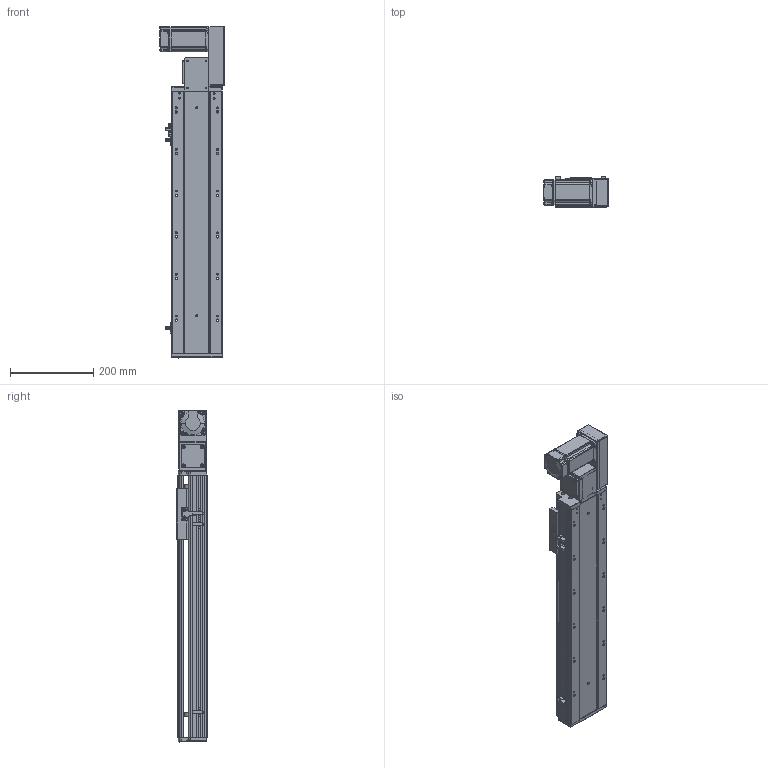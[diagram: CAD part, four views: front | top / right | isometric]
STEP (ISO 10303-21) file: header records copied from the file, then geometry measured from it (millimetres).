
FILE_DESCRIPTION (( 'STEP AP203' ), '1' );
FILE_NAME ('RY120-T-300-RK.SLDASM_400.step', '2021-03-01T03:52:36', ( '盈信电脑' ), ( '东莞市道滘镇水果街19号' ), 'SwSTEP 2.0', 'SolidWorks 2012', '' );
FILE_SCHEMA (( 'CONFIG_CONTROL_DESIGN' ));
Length unit declared in the file: millimetre
Products named in the file (17): RY120-T-300-RK.SLDASM_400; RY120-T主同步轮轴承压盖; RY120-T蹟翐M4; RY120-T萇儂欶; RY120-T萇儂假蚾啣; 15; 滅袉蝶18-10; RY120-T翋肮祭謫裔啣; RY120-T翋肮祭盓傅釱; RY120-T肮祭湍揤踡輸2; RY120-T肮祭湍揤踡輸1; RY120外置感应片(140共用）; 覜茼ん672; RY120-T-300-RK倰第奻裔啣_400; RY120綴裔啣; RY120肮祭湍臏賑輸; RY120-T-300-RK倰第菁釱_400
Assembly tree (22 placements, depth 2):
  RY120-T-300-RK.SLDASM_400
    RY120-T-300-RK倰第菁釱_400
    RY120-T-300-RK倰第奻裔啣_400
    RY120肮祭湍臏賑輸
    RY120綴裔啣
    覜茼ん672  x3
    RY120外置感应片(140共用）
    RY120-T肮祭湍揤踡輸1
    RY120-T肮祭湍揤踡輸2
    RY120-T翋肮祭盓傅釱
    滅袉蝶18-10  x2
    RY120-T翋肮祭謫裔啣
    15
    RY120-T萇儂假蚾啣
    RY120-T蹟翐M4  x4
    RY120-T萇儂欶
    RY120-T主同步轮轴承压盖
Bounding box: 155.5 x 73 x 797.5 mm (x, y, z)
Volume: 2301526.8 mm3; surface area: 830558.6 mm2
Topology: 23 solids, 23 shells, 2698 faces, 7348 edges, 4732 vertices
Faces by surface type: plane 1402, cylinder 996, cone 211, bspline 89
Entity records: 85567 total; most frequent: CARTESIAN_POINT 21566, ORIENTED_EDGE 13192, DIRECTION 12470, EDGE_CURVE 6596, VERTEX_POINT 4319, LINE 4184, VECTOR 4184, AXIS2_PLACEMENT_3D 4143
